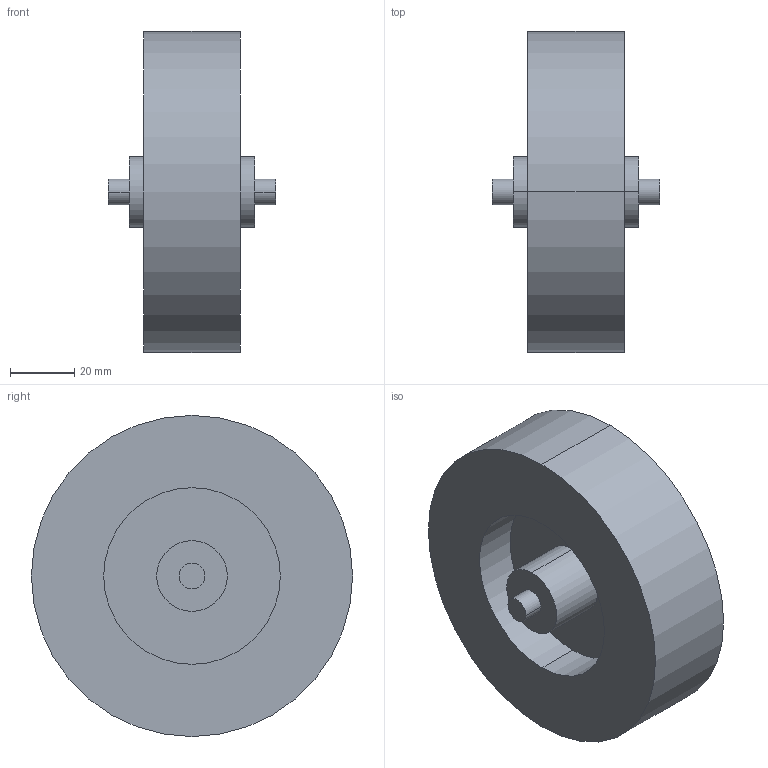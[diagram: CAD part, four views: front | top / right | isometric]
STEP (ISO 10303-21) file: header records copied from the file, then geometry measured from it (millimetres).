
FILE_DESCRIPTION((''),'2;1');
FILE_NAME('RUF100N_1','2002-12-27T',('Lipro doo'),('Lipro d.o.o.'),'PRO/ENGINEER BY PARAMETRIC TECHNOLOGY CORPORATION, 2001150','PRO/ENGINEER BY PARAMETRIC TECHNOLOGY CORPORATION, 2001150','');
FILE_SCHEMA(('CONFIG_CONTROL_DESIGN'));
Length unit declared in the file: millimetre
Products named in the file (1): RUF100N_1
Bounding box: 52 x 100 x 100 mm (x, y, z)
Volume: 185810.3 mm3; surface area: 32612.9 mm2
Topology: 1 solids, 1 shells, 22 faces, 42 edges, 28 vertices
Faces by surface type: cylinder 14, plane 8
Entity records: 612 total; most frequent: DIRECTION 114, CARTESIAN_POINT 92, ORIENTED_EDGE 84, AXIS2_PLACEMENT_3D 50, EDGE_CURVE 42, VERTEX_POINT 28, EDGE_LOOP 28, CIRCLE 28
